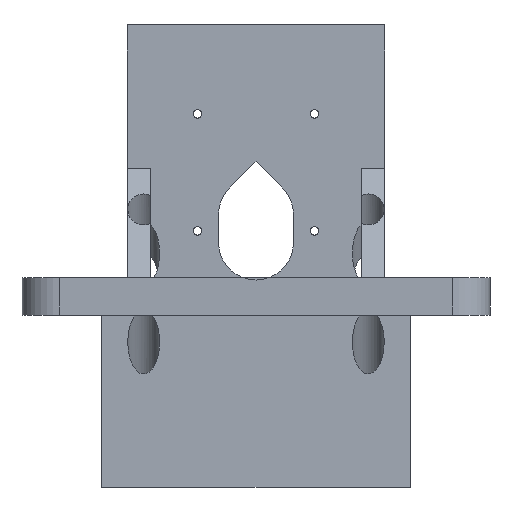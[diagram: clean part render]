
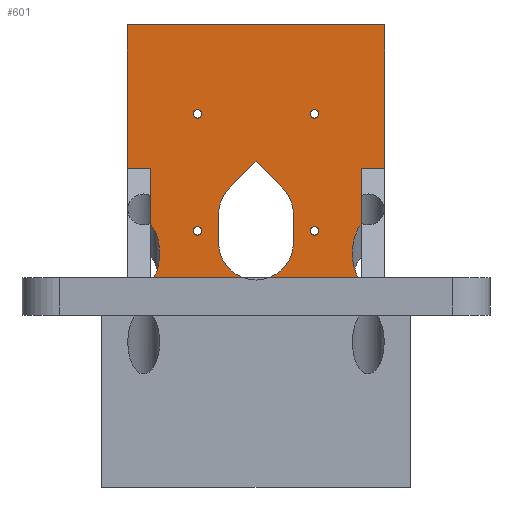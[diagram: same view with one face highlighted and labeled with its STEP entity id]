
A CAD part, left-side view. The second image highlights one B-rep face of the part: STEP entity #601.
In plain terms, the highlighted planar face has unit normal (-1, 0, 0).
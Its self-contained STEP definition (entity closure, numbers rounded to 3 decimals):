
#117 = VERTEX_POINT('',#118);
#118 = CARTESIAN_POINT('',(1.6,2.784,8.));
#124 = EDGE_CURVE('',#117,#125,#127,.T.);
#125 = VERTEX_POINT('',#126);
#126 = CARTESIAN_POINT('',(1.6,21.826,8.));
#127 = LINE('',#128,#129);
#128 = CARTESIAN_POINT('',(1.6,-13.75,8.));
#129 = VECTOR('',#130,1.);
#130 = DIRECTION('',(0.,1.,0.));
#282 = VERTEX_POINT('',#283);
#283 = CARTESIAN_POINT('',(1.6,-21.826,8.));
#290 = EDGE_CURVE('',#282,#291,#293,.T.);
#291 = VERTEX_POINT('',#292);
#292 = CARTESIAN_POINT('',(1.6,-2.784,8.));
#293 = LINE('',#294,#295);
#294 = CARTESIAN_POINT('',(1.6,-13.75,8.));
#295 = VECTOR('',#296,1.);
#296 = DIRECTION('',(0.,1.,0.));
#601 = ADVANCED_FACE('',(#602,#744,#755,#766,#777),#788,.F.);
#602 = FACE_BOUND('',#603,.F.);
#603 = EDGE_LOOP('',(#604,#614,#622,#630,#637,#638,#647,#655,#664,#672,
    #680,#689,#697,#704,#705,#714,#722,#730,#738));
#604 = ORIENTED_EDGE('',*,*,#605,.F.);
#605 = EDGE_CURVE('',#606,#608,#610,.T.);
#606 = VERTEX_POINT('',#607);
#607 = CARTESIAN_POINT('',(1.6,-27.5,31.375));
#608 = VERTEX_POINT('',#609);
#609 = CARTESIAN_POINT('',(1.6,-27.5,62.));
#610 = LINE('',#611,#612);
#611 = CARTESIAN_POINT('',(1.6,-27.5,7.));
#612 = VECTOR('',#613,1.);
#613 = DIRECTION('',(0.,0.,1.));
#614 = ORIENTED_EDGE('',*,*,#615,.F.);
#615 = EDGE_CURVE('',#616,#606,#618,.T.);
#616 = VERTEX_POINT('',#617);
#617 = CARTESIAN_POINT('',(1.6,-22.5,31.375));
#618 = LINE('',#619,#620);
#619 = CARTESIAN_POINT('',(1.6,-27.5,31.375));
#620 = VECTOR('',#621,1.);
#621 = DIRECTION('',(0.,-1.,0.));
#622 = ORIENTED_EDGE('',*,*,#623,.F.);
#623 = EDGE_CURVE('',#624,#616,#626,.T.);
#624 = VERTEX_POINT('',#625);
#625 = CARTESIAN_POINT('',(1.6,-22.5,19.331));
#626 = LINE('',#627,#628);
#627 = CARTESIAN_POINT('',(1.6,-22.5,7.));
#628 = VECTOR('',#629,1.);
#629 = DIRECTION('',(0.,0.,1.));
#630 = ORIENTED_EDGE('',*,*,#631,.F.);
#631 = EDGE_CURVE('',#282,#624,#632,.T.);
#632 = ELLIPSE('',#633,6.8,3.4);
#633 = AXIS2_PLACEMENT_3D('',#634,#635,#636);
#634 = CARTESIAN_POINT('',(1.6,-24.,13.229));
#635 = DIRECTION('',(1.,-0.,0.));
#636 = DIRECTION('',(0.,0.,-1.));
#637 = ORIENTED_EDGE('',*,*,#290,.T.);
#638 = ORIENTED_EDGE('',*,*,#639,.T.);
#639 = EDGE_CURVE('',#291,#640,#642,.T.);
#640 = VERTEX_POINT('',#641);
#641 = CARTESIAN_POINT('',(1.6,-8.,15.5));
#642 = CIRCLE('',#643,8.);
#643 = AXIS2_PLACEMENT_3D('',#644,#645,#646);
#644 = CARTESIAN_POINT('',(1.6,0.,15.5));
#645 = DIRECTION('',(-1.,-0.,0.));
#646 = DIRECTION('',(0.,0.,-1.));
#647 = ORIENTED_EDGE('',*,*,#648,.T.);
#648 = EDGE_CURVE('',#640,#649,#651,.T.);
#649 = VERTEX_POINT('',#650);
#650 = CARTESIAN_POINT('',(1.6,-8.,21.5));
#651 = LINE('',#652,#653);
#652 = CARTESIAN_POINT('',(1.6,-8.,11.25));
#653 = VECTOR('',#654,1.);
#654 = DIRECTION('',(0.,0.,1.));
#655 = ORIENTED_EDGE('',*,*,#656,.T.);
#656 = EDGE_CURVE('',#649,#657,#659,.T.);
#657 = VERTEX_POINT('',#658);
#658 = CARTESIAN_POINT('',(1.6,-5.657,27.157));
#659 = CIRCLE('',#660,8.);
#660 = AXIS2_PLACEMENT_3D('',#661,#662,#663);
#661 = CARTESIAN_POINT('',(1.6,0.,21.5));
#662 = DIRECTION('',(-1.,-0.,0.));
#663 = DIRECTION('',(0.,0.,-1.));
#664 = ORIENTED_EDGE('',*,*,#665,.T.);
#665 = EDGE_CURVE('',#657,#666,#668,.T.);
#666 = VERTEX_POINT('',#667);
#667 = CARTESIAN_POINT('',(1.6,0.,32.814));
#668 = LINE('',#669,#670);
#669 = CARTESIAN_POINT('',(1.6,-13.328,19.485));
#670 = VECTOR('',#671,1.);
#671 = DIRECTION('',(0.,0.707,0.707));
#672 = ORIENTED_EDGE('',*,*,#673,.T.);
#673 = EDGE_CURVE('',#666,#674,#676,.T.);
#674 = VERTEX_POINT('',#675);
#675 = CARTESIAN_POINT('',(1.6,5.657,27.157));
#676 = LINE('',#677,#678);
#677 = CARTESIAN_POINT('',(1.6,5.235,27.578));
#678 = VECTOR('',#679,1.);
#679 = DIRECTION('',(0.,0.707,-0.707));
#680 = ORIENTED_EDGE('',*,*,#681,.T.);
#681 = EDGE_CURVE('',#674,#682,#684,.T.);
#682 = VERTEX_POINT('',#683);
#683 = CARTESIAN_POINT('',(1.6,8.,21.5));
#684 = CIRCLE('',#685,8.);
#685 = AXIS2_PLACEMENT_3D('',#686,#687,#688);
#686 = CARTESIAN_POINT('',(1.6,0.,21.5));
#687 = DIRECTION('',(-1.,-0.,0.));
#688 = DIRECTION('',(0.,0.,-1.));
#689 = ORIENTED_EDGE('',*,*,#690,.F.);
#690 = EDGE_CURVE('',#691,#682,#693,.T.);
#691 = VERTEX_POINT('',#692);
#692 = CARTESIAN_POINT('',(1.6,8.,15.5));
#693 = LINE('',#694,#695);
#694 = CARTESIAN_POINT('',(1.6,8.,11.25));
#695 = VECTOR('',#696,1.);
#696 = DIRECTION('',(0.,0.,1.));
#697 = ORIENTED_EDGE('',*,*,#698,.T.);
#698 = EDGE_CURVE('',#691,#117,#699,.T.);
#699 = CIRCLE('',#700,8.);
#700 = AXIS2_PLACEMENT_3D('',#701,#702,#703);
#701 = CARTESIAN_POINT('',(1.6,0.,15.5));
#702 = DIRECTION('',(-1.,-0.,0.));
#703 = DIRECTION('',(0.,0.,-1.));
#704 = ORIENTED_EDGE('',*,*,#124,.T.);
#705 = ORIENTED_EDGE('',*,*,#706,.F.);
#706 = EDGE_CURVE('',#707,#125,#709,.T.);
#707 = VERTEX_POINT('',#708);
#708 = CARTESIAN_POINT('',(1.6,22.5,19.331));
#709 = ELLIPSE('',#710,6.8,3.4);
#710 = AXIS2_PLACEMENT_3D('',#711,#712,#713);
#711 = CARTESIAN_POINT('',(1.6,24.,13.229));
#712 = DIRECTION('',(1.,-0.,0.));
#713 = DIRECTION('',(0.,0.,-1.));
#714 = ORIENTED_EDGE('',*,*,#715,.T.);
#715 = EDGE_CURVE('',#707,#716,#718,.T.);
#716 = VERTEX_POINT('',#717);
#717 = CARTESIAN_POINT('',(1.6,22.5,31.375));
#718 = LINE('',#719,#720);
#719 = CARTESIAN_POINT('',(1.6,22.5,7.));
#720 = VECTOR('',#721,1.);
#721 = DIRECTION('',(0.,0.,1.));
#722 = ORIENTED_EDGE('',*,*,#723,.F.);
#723 = EDGE_CURVE('',#724,#716,#726,.T.);
#724 = VERTEX_POINT('',#725);
#725 = CARTESIAN_POINT('',(1.6,27.5,31.375));
#726 = LINE('',#727,#728);
#727 = CARTESIAN_POINT('',(1.6,-2.5,31.375));
#728 = VECTOR('',#729,1.);
#729 = DIRECTION('',(0.,-1.,0.));
#730 = ORIENTED_EDGE('',*,*,#731,.T.);
#731 = EDGE_CURVE('',#724,#732,#734,.T.);
#732 = VERTEX_POINT('',#733);
#733 = CARTESIAN_POINT('',(1.6,27.5,62.));
#734 = LINE('',#735,#736);
#735 = CARTESIAN_POINT('',(1.6,27.5,7.));
#736 = VECTOR('',#737,1.);
#737 = DIRECTION('',(0.,0.,1.));
#738 = ORIENTED_EDGE('',*,*,#739,.F.);
#739 = EDGE_CURVE('',#608,#732,#740,.T.);
#740 = LINE('',#741,#742);
#741 = CARTESIAN_POINT('',(1.6,-27.5,62.));
#742 = VECTOR('',#743,1.);
#743 = DIRECTION('',(0.,1.,0.));
#744 = FACE_BOUND('',#745,.F.);
#745 = EDGE_LOOP('',(#746));
#746 = ORIENTED_EDGE('',*,*,#747,.T.);
#747 = EDGE_CURVE('',#748,#748,#750,.T.);
#748 = VERTEX_POINT('',#749);
#749 = CARTESIAN_POINT('',(1.6,12.5,17.1));
#750 = CIRCLE('',#751,0.9);
#751 = AXIS2_PLACEMENT_3D('',#752,#753,#754);
#752 = CARTESIAN_POINT('',(1.6,12.5,18.));
#753 = DIRECTION('',(-1.,-0.,0.));
#754 = DIRECTION('',(0.,0.,-1.));
#755 = FACE_BOUND('',#756,.F.);
#756 = EDGE_LOOP('',(#757));
#757 = ORIENTED_EDGE('',*,*,#758,.T.);
#758 = EDGE_CURVE('',#759,#759,#761,.T.);
#759 = VERTEX_POINT('',#760);
#760 = CARTESIAN_POINT('',(1.6,12.5,42.1));
#761 = CIRCLE('',#762,0.9);
#762 = AXIS2_PLACEMENT_3D('',#763,#764,#765);
#763 = CARTESIAN_POINT('',(1.6,12.5,43.));
#764 = DIRECTION('',(-1.,-0.,0.));
#765 = DIRECTION('',(0.,0.,-1.));
#766 = FACE_BOUND('',#767,.F.);
#767 = EDGE_LOOP('',(#768));
#768 = ORIENTED_EDGE('',*,*,#769,.T.);
#769 = EDGE_CURVE('',#770,#770,#772,.T.);
#770 = VERTEX_POINT('',#771);
#771 = CARTESIAN_POINT('',(1.6,-12.5,17.1));
#772 = CIRCLE('',#773,0.9);
#773 = AXIS2_PLACEMENT_3D('',#774,#775,#776);
#774 = CARTESIAN_POINT('',(1.6,-12.5,18.));
#775 = DIRECTION('',(-1.,-0.,0.));
#776 = DIRECTION('',(0.,0.,-1.));
#777 = FACE_BOUND('',#778,.F.);
#778 = EDGE_LOOP('',(#779));
#779 = ORIENTED_EDGE('',*,*,#780,.T.);
#780 = EDGE_CURVE('',#781,#781,#783,.T.);
#781 = VERTEX_POINT('',#782);
#782 = CARTESIAN_POINT('',(1.6,-12.5,42.1));
#783 = CIRCLE('',#784,0.9);
#784 = AXIS2_PLACEMENT_3D('',#785,#786,#787);
#785 = CARTESIAN_POINT('',(1.6,-12.5,43.));
#786 = DIRECTION('',(-1.,-0.,0.));
#787 = DIRECTION('',(0.,0.,-1.));
#788 = PLANE('',#789);
#789 = AXIS2_PLACEMENT_3D('',#790,#791,#792);
#790 = CARTESIAN_POINT('',(1.6,-27.5,7.));
#791 = DIRECTION('',(1.,0.,0.));
#792 = DIRECTION('',(0.,0.,1.));
